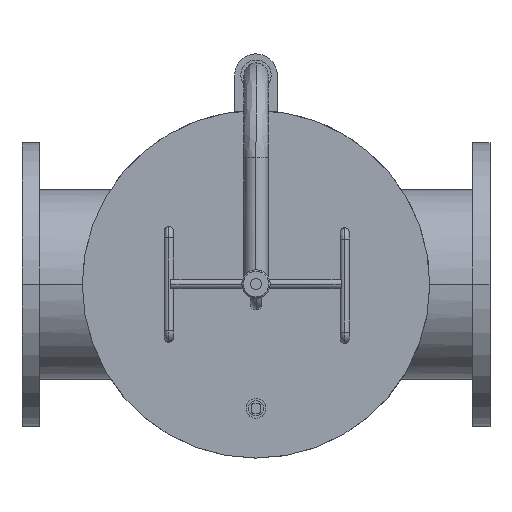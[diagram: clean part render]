
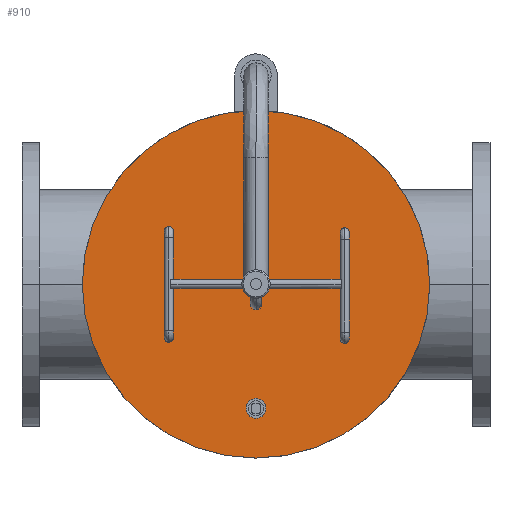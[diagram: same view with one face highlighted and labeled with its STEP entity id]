
A CAD part, top view. The second image highlights one B-rep face of the part: STEP entity #910.
In plain terms, the highlighted planar face has unit normal (0, 0, 1).
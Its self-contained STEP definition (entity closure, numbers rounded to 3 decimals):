
#910=ADVANCED_FACE('',(#1672,#1673,#1674,#1675,#1676,#1677,#1678,#1679),#1671,.T.);
#1671=PLANE('',#5593);
#1672=FACE_OUTER_BOUND('',#5594,.T.);
#1673=FACE_BOUND('',#5595,.T.);
#1674=FACE_BOUND('',#5596,.T.);
#1675=FACE_BOUND('',#5597,.T.);
#1676=FACE_BOUND('',#5598,.T.);
#1677=FACE_BOUND('',#5599,.T.);
#1678=FACE_BOUND('',#5600,.T.);
#1679=FACE_BOUND('',#5601,.T.);
#5590=CARTESIAN_POINT('',(-255.,-434.352,301.));
#5591=DIRECTION('',(0.,0.,1.));
#5592=DIRECTION('',(1.,0.,0.));
#5593=AXIS2_PLACEMENT_3D('',#5590,#5591,#5592);
#5594=EDGE_LOOP('',(#7670,#7671));
#5595=EDGE_LOOP('',(#7672,#7673));
#5596=EDGE_LOOP('',(#7674,#7675));
#5597=EDGE_LOOP('',(#7676,#7677));
#5598=EDGE_LOOP('',(#7678,#7679));
#5599=EDGE_LOOP('',(#7680,#7681));
#5600=EDGE_LOOP('',(#7682,#7683));
#5601=EDGE_LOOP('',(#7684,#7685));
#7670=ORIENTED_EDGE('',*,*,#9076,.F.);
#7671=ORIENTED_EDGE('',*,*,#9077,.F.);
#7672=ORIENTED_EDGE('',*,*,#9078,.F.);
#7673=ORIENTED_EDGE('',*,*,#9079,.F.);
#7674=ORIENTED_EDGE('',*,*,#9080,.F.);
#7675=ORIENTED_EDGE('',*,*,#9081,.F.);
#7676=ORIENTED_EDGE('',*,*,#9082,.F.);
#7677=ORIENTED_EDGE('',*,*,#9083,.F.);
#7678=ORIENTED_EDGE('',*,*,#9084,.F.);
#7679=ORIENTED_EDGE('',*,*,#9085,.F.);
#7680=ORIENTED_EDGE('',*,*,#9086,.F.);
#7681=ORIENTED_EDGE('',*,*,#9087,.F.);
#7682=ORIENTED_EDGE('',*,*,#9088,.F.);
#7683=ORIENTED_EDGE('',*,*,#9089,.F.);
#7684=ORIENTED_EDGE('',*,*,#9090,.F.);
#7685=ORIENTED_EDGE('',*,*,#9091,.F.);
#9076=EDGE_CURVE('',#10868,#10869,#10870,.T.);
#9077=EDGE_CURVE('',#10869,#10868,#10876,.T.);
#9078=EDGE_CURVE('',#10882,#10883,#10884,.T.);
#9079=EDGE_CURVE('',#10883,#10882,#10890,.T.);
#9080=EDGE_CURVE('',#10896,#10897,#10898,.T.);
#9081=EDGE_CURVE('',#10897,#10896,#10904,.T.);
#9082=EDGE_CURVE('',#10910,#10911,#10912,.T.);
#9083=EDGE_CURVE('',#10911,#10910,#10918,.T.);
#9084=EDGE_CURVE('',#10924,#10925,#10926,.T.);
#9085=EDGE_CURVE('',#10925,#10924,#10932,.T.);
#9086=EDGE_CURVE('',#10938,#10939,#10940,.T.);
#9087=EDGE_CURVE('',#10939,#10938,#10946,.T.);
#9088=EDGE_CURVE('',#10952,#10953,#10954,.T.);
#9089=EDGE_CURVE('',#10953,#10952,#10960,.T.);
#9090=EDGE_CURVE('',#10966,#10967,#10968,.T.);
#9091=EDGE_CURVE('',#10967,#10966,#10974,.T.);
#10868=VERTEX_POINT('',#16008);
#10869=VERTEX_POINT('',#16009);
#10870=CIRCLE('',#16013,245.);
#10876=CIRCLE('',#16017,245.);
#10882=VERTEX_POINT('',#16018);
#10883=VERTEX_POINT('',#16019);
#10884=CIRCLE('',#16023,2.);
#10890=CIRCLE('',#16027,2.);
#10896=VERTEX_POINT('',#16028);
#10897=VERTEX_POINT('',#16029);
#10898=CIRCLE('',#16033,2.);
#10904=CIRCLE('',#16037,2.);
#10910=VERTEX_POINT('',#16038);
#10911=VERTEX_POINT('',#16039);
#10912=CIRCLE('',#16043,2.);
#10918=CIRCLE('',#16047,2.);
#10924=VERTEX_POINT('',#16048);
#10925=VERTEX_POINT('',#16049);
#10926=CIRCLE('',#16053,2.);
#10932=CIRCLE('',#16057,2.);
#10938=VERTEX_POINT('',#16058);
#10939=VERTEX_POINT('',#16059);
#10940=CIRCLE('',#16063,2.);
#10946=CIRCLE('',#16067,2.);
#10952=VERTEX_POINT('',#16068);
#10953=VERTEX_POINT('',#16069);
#10954=CIRCLE('',#16073,2.);
#10960=CIRCLE('',#16077,2.);
#10966=VERTEX_POINT('',#16078);
#10967=VERTEX_POINT('',#16079);
#10968=CIRCLE('',#16083,14.);
#10974=CIRCLE('',#16087,14.);
#16008=CARTESIAN_POINT('',(245.,0.,301.));
#16009=CARTESIAN_POINT('',(-245.,0.,301.));
#16010=CARTESIAN_POINT('',(0.,0.,301.));
#16011=DIRECTION('',(0.,0.,-1.));
#16012=DIRECTION('',(-1.,0.,0.));
#16013=AXIS2_PLACEMENT_3D('',#16010,#16011,#16012);
#16014=CARTESIAN_POINT('',(0.,0.,301.));
#16015=DIRECTION('',(0.,0.,-1.));
#16016=DIRECTION('',(-1.,0.,0.));
#16017=AXIS2_PLACEMENT_3D('',#16014,#16015,#16016);
#16018=CARTESIAN_POINT('',(22.,0.,301.));
#16019=CARTESIAN_POINT('',(18.,0.,301.));
#16020=CARTESIAN_POINT('',(20.,0.,301.));
#16021=DIRECTION('',(0.,0.,1.));
#16022=DIRECTION('',(-1.,0.,0.));
#16023=AXIS2_PLACEMENT_3D('',#16020,#16021,#16022);
#16024=CARTESIAN_POINT('',(20.,0.,301.));
#16025=DIRECTION('',(0.,0.,1.));
#16026=DIRECTION('',(-1.,0.,0.));
#16027=AXIS2_PLACEMENT_3D('',#16024,#16025,#16026);
#16028=CARTESIAN_POINT('',(-18.,0.,301.));
#16029=CARTESIAN_POINT('',(-22.,0.,301.));
#16030=CARTESIAN_POINT('',(-20.,0.,301.));
#16031=DIRECTION('',(0.,0.,1.));
#16032=DIRECTION('',(-1.,0.,0.));
#16033=AXIS2_PLACEMENT_3D('',#16030,#16031,#16032);
#16034=CARTESIAN_POINT('',(-20.,0.,301.));
#16035=DIRECTION('',(0.,0.,1.));
#16036=DIRECTION('',(-1.,0.,0.));
#16037=AXIS2_PLACEMENT_3D('',#16034,#16035,#16036);
#16038=CARTESIAN_POINT('',(-123.,75.,301.));
#16039=CARTESIAN_POINT('',(-127.,75.,301.));
#16040=CARTESIAN_POINT('',(-125.,75.,301.));
#16041=DIRECTION('',(0.,0.,1.));
#16042=DIRECTION('',(-1.,0.,0.));
#16043=AXIS2_PLACEMENT_3D('',#16040,#16041,#16042);
#16044=CARTESIAN_POINT('',(-125.,75.,301.));
#16045=DIRECTION('',(0.,0.,1.));
#16046=DIRECTION('',(-1.,0.,0.));
#16047=AXIS2_PLACEMENT_3D('',#16044,#16045,#16046);
#16048=CARTESIAN_POINT('',(-123.,-75.,301.));
#16049=CARTESIAN_POINT('',(-127.,-75.,301.));
#16050=CARTESIAN_POINT('',(-125.,-75.,301.));
#16051=DIRECTION('',(0.,0.,1.));
#16052=DIRECTION('',(-1.,0.,0.));
#16053=AXIS2_PLACEMENT_3D('',#16050,#16051,#16052);
#16054=CARTESIAN_POINT('',(-125.,-75.,301.));
#16055=DIRECTION('',(0.,0.,1.));
#16056=DIRECTION('',(-1.,0.,0.));
#16057=AXIS2_PLACEMENT_3D('',#16054,#16055,#16056);
#16058=CARTESIAN_POINT('',(127.,-75.,301.));
#16059=CARTESIAN_POINT('',(123.,-75.,301.));
#16060=CARTESIAN_POINT('',(125.,-75.,301.));
#16061=DIRECTION('',(0.,0.,1.));
#16062=DIRECTION('',(-1.,0.,0.));
#16063=AXIS2_PLACEMENT_3D('',#16060,#16061,#16062);
#16064=CARTESIAN_POINT('',(125.,-75.,301.));
#16065=DIRECTION('',(0.,0.,1.));
#16066=DIRECTION('',(-1.,0.,0.));
#16067=AXIS2_PLACEMENT_3D('',#16064,#16065,#16066);
#16068=CARTESIAN_POINT('',(127.,75.,301.));
#16069=CARTESIAN_POINT('',(123.,75.,301.));
#16070=CARTESIAN_POINT('',(125.,75.,301.));
#16071=DIRECTION('',(0.,0.,1.));
#16072=DIRECTION('',(-1.,0.,0.));
#16073=AXIS2_PLACEMENT_3D('',#16070,#16071,#16072);
#16074=CARTESIAN_POINT('',(125.,75.,301.));
#16075=DIRECTION('',(0.,0.,1.));
#16076=DIRECTION('',(-1.,0.,0.));
#16077=AXIS2_PLACEMENT_3D('',#16074,#16075,#16076);
#16078=CARTESIAN_POINT('',(-14.,-175.,301.));
#16079=CARTESIAN_POINT('',(14.,-175.,301.));
#16080=CARTESIAN_POINT('',(0.,-175.,301.));
#16081=DIRECTION('',(0.,0.,1.));
#16082=DIRECTION('',(1.,0.,0.));
#16083=AXIS2_PLACEMENT_3D('',#16080,#16081,#16082);
#16084=CARTESIAN_POINT('',(0.,-175.,301.));
#16085=DIRECTION('',(0.,0.,1.));
#16086=DIRECTION('',(1.,0.,0.));
#16087=AXIS2_PLACEMENT_3D('',#16084,#16085,#16086);
